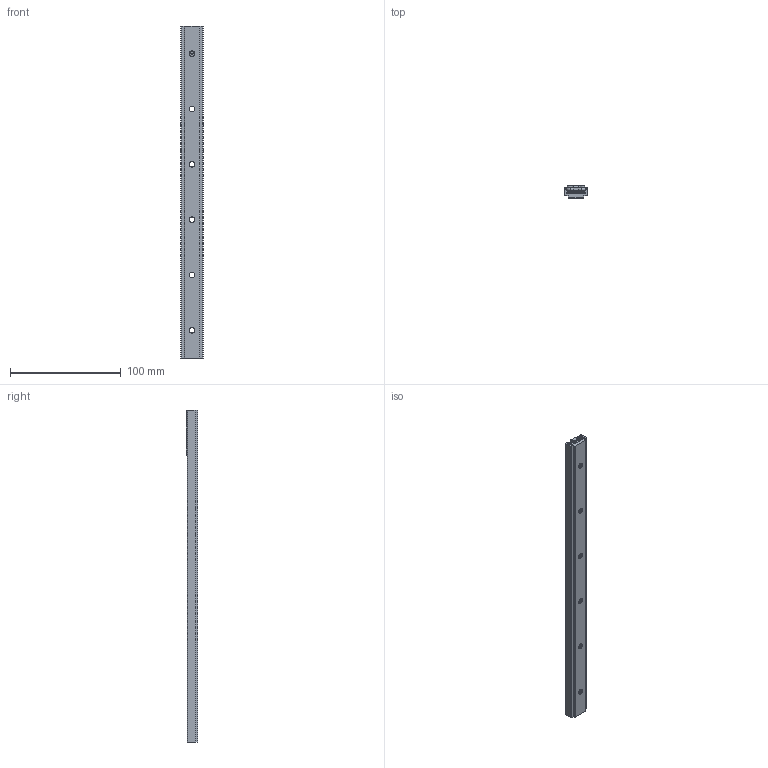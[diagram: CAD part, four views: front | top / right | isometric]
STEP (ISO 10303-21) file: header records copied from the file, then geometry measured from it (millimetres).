
FILE_DESCRIPTION (( 'STEP AP203' ), '1' );
FILE_NAME ('mlg-20c_mlg20-300_0.step', '2023-07-21T01:32:10', ( '' ), ( '' ), 'SwSTEP 2.0', 'SolidWorks 2022', '' );
FILE_SCHEMA (( 'CONFIG_CONTROL_DESIGN' ));
Length unit declared in the file: millimetre
Products named in the file (3): mlg-20c_mlg20-300_0; mlg-20c_0; mlg20-300_0_L=300
Assembly tree (2 placements, depth 2):
  mlg-20c_mlg20-300_0
    mlg20-300_0_L=300
    mlg-20c_0
Bounding box: 20.15 x 10.5 x 300 mm (x, y, z)
Volume: 22207 mm3; surface area: 24898.4 mm2
Topology: 2 solids, 2 shells, 431 faces, 1097 edges, 726 vertices
Faces by surface type: plane 258, cylinder 149, torus 24
Entity records: 13430 total; most frequent: DIRECTION 2323, CARTESIAN_POINT 2259, ORIENTED_EDGE 2194, EDGE_CURVE 1097, AXIS2_PLACEMENT_3D 790, VECTOR 743, LINE 743, VERTEX_POINT 726
